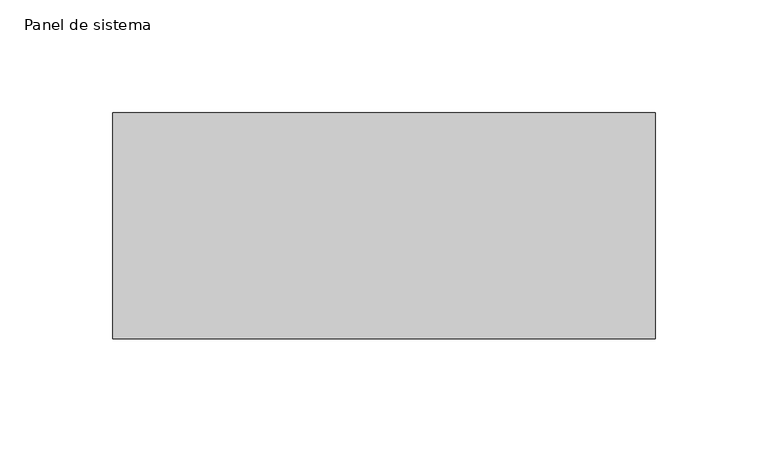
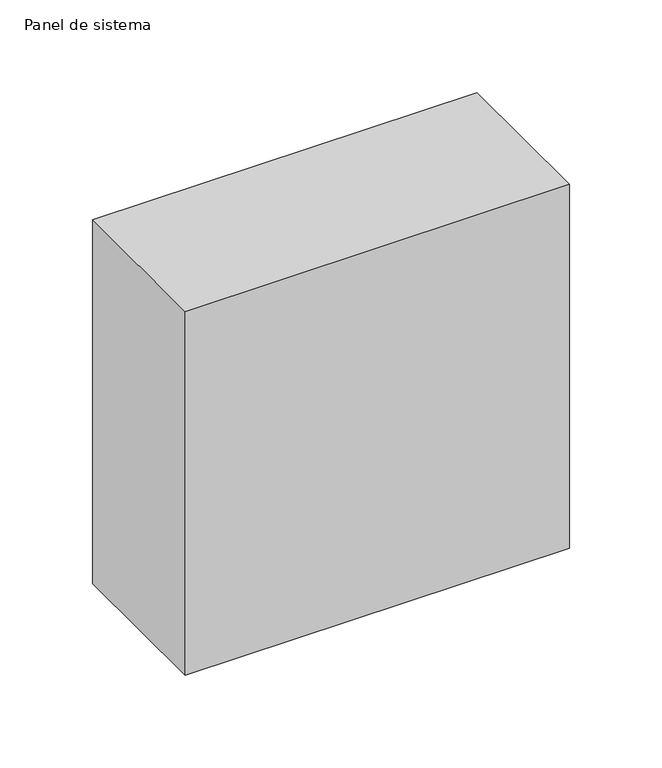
"""IFC4 building model written with IfcOpenShell, lengths in millimetres: plate geometry, Panel de sistema : PAVES."""

import ifcopenshell
import ifcopenshell.guid

model = None  # the IFC model being written
_history = None  # IfcOwnerHistory: only IFC2X3 demands one
_inside = {}  # id of a spatial element -> (the spatial element, [elements in it])
_under = {}  # id of a project, library or spatial element -> (it, [spatial elements below it])
_declared = {}  # id of a project -> (the project, [libraries it declares])
_typed = {}  # id of a type object -> (the type object, [elements of that type])
_made_of = {}  # id of a material, layer set ... -> (it, [elements and type objects made of it])


def new_model(schema):
    """Start an empty IFC model of exactly this schema.

    Asked for "IFC4X3", IfcOpenShell would pick the latest addendum, in which some entities
    have other attributes; the version numbers below select the first issue.
    IFC2X3 requires an IfcOwnerHistory on every rooted entity: one is made here for all.
    """
    global model, _history
    if schema == "IFC4X3":
        model = ifcopenshell.file(schema_version=(4, 3, 0, 0))
    else:
        model = ifcopenshell.file(schema=schema)
    _inside.clear()
    _under.clear()
    _declared.clear()
    _typed.clear()
    _made_of.clear()
    _history = None
    if model.schema == "IFC2X3":
        org = make("IfcOrganization", Name="unknown")
        user = make(
            "IfcPersonAndOrganization",
            ThePerson=make("IfcPerson", FamilyName="unknown"),
            TheOrganization=org,
        )
        app = make(
            "IfcApplication",
            ApplicationDeveloper=org,
            Version="unknown",
            ApplicationFullName="unknown",
            ApplicationIdentifier="unknown",
        )
        _history = make(
            "IfcOwnerHistory",
            OwningUser=user,
            OwningApplication=app,
            ChangeAction="ADDED",
            CreationDate=0,
        )
    return model


def make(cls, **values):
    """One entity of the class cls with the attributes given. An attribute that is None is left unset."""
    return model.create_entity(
        cls, **{name: value for name, value in values.items() if value is not None}
    )


def rooted(cls, **values):
    """An entity with a GlobalId (a new one), such as an element, a storey or a relation."""
    return make(cls, GlobalId=ifcopenshell.guid.new(), OwnerHistory=_history, **values)


def si_unit(unit_type, name, prefix=None):
    """IfcSIUnit, for example si_unit("LENGTHUNIT", "METRE", prefix="MILLI")."""
    return make("IfcSIUnit", UnitType=unit_type, Prefix=prefix, Name=name)


def assignment(units):
    """IfcUnitAssignment: the units of a project."""
    return None if units is None else make("IfcUnitAssignment", Units=units)


def point(xyz):
    """IfcCartesianPoint."""
    return None if xyz is None else make("IfcCartesianPoint", Coordinates=xyz)


def direction(xyz):
    """IfcDirection."""
    return None if xyz is None else make("IfcDirection", DirectionRatios=xyz)


def frame(location, z_axis=None, x_axis=None):
    """IfcAxis2Placement3D, a coordinate frame: its origin and axes. An axis left out is left unset."""
    return make(
        "IfcAxis2Placement3D",
        Location=point(location),
        Axis=direction(z_axis),
        RefDirection=direction(x_axis),
    )


def origin():
    """The frame at (0, 0, 0) with its axes left unset."""
    return frame((0.0, 0.0, 0.0))


def origin_with_axes():
    """The frame at (0, 0, 0) with the z axis (0, 0, 1) and the x axis (1, 0, 0) written out."""
    return frame((0.0, 0.0, 0.0), z_axis=(0.0, 0.0, 1.0), x_axis=(1.0, 0.0, 0.0))


def place(relative_to, where):
    """IfcLocalPlacement: puts the frame where relative to a parent placement (None: the world)."""
    return make(
        "IfcLocalPlacement", PlacementRelTo=relative_to, RelativePlacement=where
    )


def context(
    kind, dimensions, precision=None, world=None, true_north=None, identifier=None
):
    """IfcGeometricRepresentationContext, for example the 3D "Model" context."""
    return make(
        "IfcGeometricRepresentationContext",
        ContextIdentifier=identifier,
        ContextType=kind,
        CoordinateSpaceDimension=dimensions,
        Precision=precision,
        WorldCoordinateSystem=world,
        TrueNorth=true_north,
    )


def project(units=None, contexts=None):
    """IfcProject with its units and contexts."""
    return rooted(
        "IfcProject",
        Name="project",
        RepresentationContexts=contexts,
        UnitsInContext=assignment(units),
    )


def spatial(cls, under=None, at=None, **own):
    """A site, building, storey or space (cls), placed at a placement, below another one or the project."""
    s = rooted(cls, ObjectPlacement=at, **own)
    if under is not None:
        _under.setdefault(under.id(), (under, []))[1].append(s)
    return s


def polyline(points):
    """IfcPolyline through the points."""
    return make("IfcPolyline", Points=[point(p) for p in points])


def outline(outer, holes=None, kind="AREA"):
    """IfcArbitraryClosedProfileDef: a profile drawn as a closed curve; with holes, ...WithVoids."""
    if holes is None:
        return make("IfcArbitraryClosedProfileDef", ProfileType=kind, OuterCurve=outer)
    return make(
        "IfcArbitraryProfileDefWithVoids",
        ProfileType=kind,
        OuterCurve=outer,
        InnerCurves=holes,
    )


def extrude(swept, where, along, depth):
    """IfcExtrudedAreaSolid: the profile swept, set in the frame where, extruded along a direction by depth."""
    return make(
        "IfcExtrudedAreaSolid",
        SweptArea=swept,
        Position=where,
        ExtrudedDirection=direction(along),
        Depth=depth,
    )


def shape(context_of_items, identifier, shape_type, items):
    """IfcShapeRepresentation: the items that make up one representation, for example the "Body"."""
    return make(
        "IfcShapeRepresentation",
        ContextOfItems=context_of_items,
        RepresentationIdentifier=identifier,
        RepresentationType=shape_type,
        Items=items,
    )


def source(mapping_origin, context_of_items, identifier, shape_type, items):
    """IfcRepresentationMap: a shape defined once, which mapped items show again and again."""
    return make(
        "IfcRepresentationMap",
        MappingOrigin=mapping_origin,
        MappedRepresentation=shape(context_of_items, identifier, shape_type, items),
    )


def transform(
    local_origin,
    x_axis=None,
    y_axis=None,
    z_axis=None,
    scale=None,
    scale2=None,
    scale3=None,
    uniform=True,
):
    """IfcCartesianTransformationOperator3D, or its non-uniform kind. x_axis, y_axis, z_axis: its Axis1, 2, 3."""
    if uniform:
        return make(
            "IfcCartesianTransformationOperator3D",
            Axis1=direction(x_axis),
            Axis2=direction(y_axis),
            LocalOrigin=point(local_origin),
            Scale=scale,
            Axis3=direction(z_axis),
        )
    return make(
        "IfcCartesianTransformationOperator3DnonUniform",
        Axis1=direction(x_axis),
        Axis2=direction(y_axis),
        LocalOrigin=point(local_origin),
        Scale=scale,
        Axis3=direction(z_axis),
        Scale2=scale2,
        Scale3=scale3,
    )


def mapped(mapping_source, mapping_target):
    """IfcMappedItem: shows the shape of a source again, moved by a transform."""
    return make(
        "IfcMappedItem", MappingSource=mapping_source, MappingTarget=mapping_target
    )


def made_of(thing, what):
    """Note that an element or type object is made of a material, layer set ...; save() writes the relation."""
    if what is not None:
        _made_of.setdefault(what.id(), (what, []))[1].append(thing)
    return thing


def element(
    cls,
    number,
    at=None,
    inside=None,
    cuts=None,
    type_object=None,
    material=None,
    context=None,
    identifier="Body",
    shape_type=None,
    held_by="IfcProductDefinitionShape",
    body=None,
    shapes=None,
    **own,
):
    """One element of the class cls, such as IfcWall. Its Tag is "e" and its number.

    at: its placement. inside: the storey or other place that contains it. cuts: it is an
    opening in that element (IfcRelVoidsElement). A single representation is given by context,
    identifier, shape_type and body (its items); several are given by shapes. held_by: the class
    of the entity that holds the representations. save() writes the other relations.
    """
    e = rooted(cls, Tag="e%d" % number, ObjectPlacement=at, **own)
    if body is not None:
        shapes = [shape(context, identifier, shape_type, body)]
    if shapes is not None:
        e.Representation = make(held_by, Representations=shapes)
    if inside is not None:
        _inside.setdefault(inside.id(), (inside, []))[1].append(e)
    if cuts is not None:
        rooted(
            "IfcRelVoidsElement", RelatingBuildingElement=cuts, RelatedOpeningElement=e
        )
    if type_object is not None:
        _typed.setdefault(type_object.id(), (type_object, []))[1].append(e)
    return made_of(e, material)


def aggregate(whole, parts):
    """IfcRelAggregates: a whole, such as a stair, and the parts it consists of."""
    return rooted("IfcRelAggregates", RelatingObject=whole, RelatedObjects=parts)


def save(model, path):
    """Write the relations noted so far, then the file.

    IfcRelAggregates (storeys below a building ...), IfcRelContainedInSpatialStructure (elements
    in a storey), IfcRelDefinesByType, IfcRelAssociatesMaterial and IfcRelDeclares: one each for
    every whole, place, type object, material and project.
    """
    for whole, parts in _under.values():
        aggregate(whole, parts)
    for where, things in _inside.values():
        rooted(
            "IfcRelContainedInSpatialStructure",
            RelatedElements=things,
            RelatingStructure=where,
        )
    for kind, things in _typed.values():
        rooted("IfcRelDefinesByType", RelatedObjects=things, RelatingType=kind)
    for what, things in _made_of.values():
        rooted("IfcRelAssociatesMaterial", RelatedObjects=things, RelatingMaterial=what)
    for by, libraries in _declared.values():
        rooted("IfcRelDeclares", RelatingContext=by, RelatedDefinitions=libraries)
    model.write(path)


def panel_de_sistema_56062982(model_context):
    return source(origin(), model_context, "Body", "SweptSolid", [
        extrude(outline(polyline([(120.0, -50.0), (-120.0, -50.0), (-120.0, 50.0), (120.0, 50.0), (120.0, -50.0)])), origin_with_axes(), (0.0, 0.0, 1.0), 240.0),
    ])


if __name__ == "__main__":
    model = new_model("IFC4")
    model_context = context("Model", 3, world=origin())
    ifc_project = project(units=[si_unit("LENGTHUNIT", "METRE", prefix="MILLI")], contexts=[model_context])
    site = spatial("IfcSite", under=ifc_project)
    building = spatial("IfcBuilding", under=site)
    placement = place(None, origin())
    panel_de_sistema_shape = panel_de_sistema_56062982(model_context)
    element("IfcPlate", 1, ObjectType="Panel de sistema : PAVES", at=placement, inside=building, context=model_context, shape_type="MappedRepresentation", body=[
        mapped(panel_de_sistema_shape, transform((0.0, 0.0, 0.0), x_axis=(1.0, 0.0, 0.0), y_axis=(0.0, 1.0, 0.0), z_axis=(0.0, 0.0, 1.0))),
    ])
    save(model, "model.ifc")
